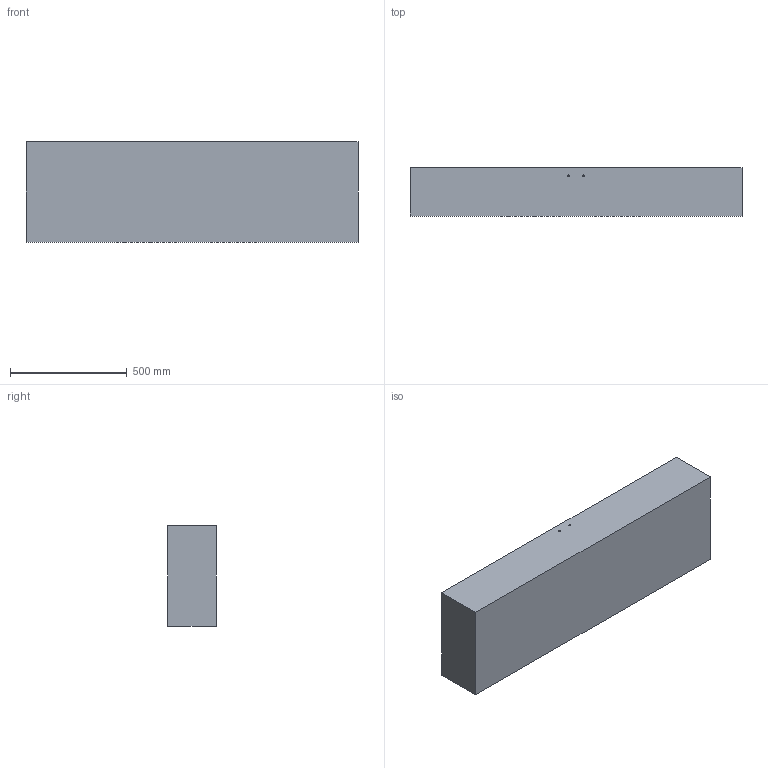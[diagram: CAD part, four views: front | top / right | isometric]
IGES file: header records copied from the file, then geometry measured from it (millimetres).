
Start section: SolidWorks IGES file using analytic representation for surfaces
Global section: file name: C:\Working\1770\1770 OEM drawings 10-07-09\1771-931B-CLR.IGS; native system: SolidWorks 2007; preprocessor: SolidWorks 2007; author: mhakami; date: 091007.132504; units: inch
Bounding box: 1422.39 x 206.5 x 431.79 mm (x, y, z)
Surface area: 2593456.6 mm2 (no closed solid volume)
Topology: 0 solids, 0 shells, 359 faces, 3077 edges, 3072 vertices
Faces by surface type: bspline 213, revolution 146
